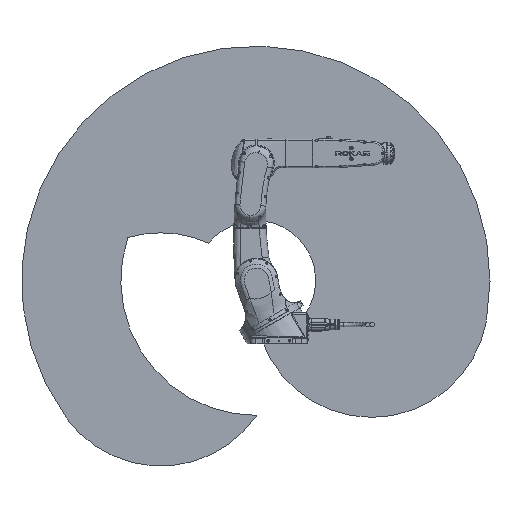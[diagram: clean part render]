
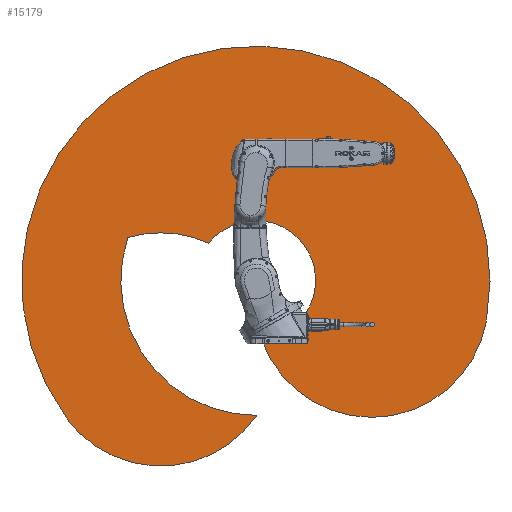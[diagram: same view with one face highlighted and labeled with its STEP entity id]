
A CAD part, front view. The second image highlights one B-rep face of the part: STEP entity #15179.
In plain terms, the highlighted planar face has unit normal (0, -1, 0).
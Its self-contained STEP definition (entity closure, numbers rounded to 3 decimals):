
#15179=ADVANCED_FACE('',(#19176),#16331,.T.);
#16331=PLANE('',#56952);
#19176=FACE_OUTER_BOUND('',#22993,.T.);
#22993=EDGE_LOOP('',(#37634,#37635,#37636,#37637,#37638,#37639));
#37634=ORIENTED_EDGE('',*,*,#49543,.T.);
#37635=ORIENTED_EDGE('',*,*,#49544,.T.);
#37636=ORIENTED_EDGE('',*,*,#49545,.T.);
#37637=ORIENTED_EDGE('',*,*,#49546,.T.);
#37638=ORIENTED_EDGE('',*,*,#49547,.T.);
#37639=ORIENTED_EDGE('',*,*,#49548,.T.);
#42217=VERTEX_POINT('',#145401);
#42218=VERTEX_POINT('',#145402);
#42219=VERTEX_POINT('',#145404);
#42220=VERTEX_POINT('',#145406);
#42221=VERTEX_POINT('',#145408);
#42222=VERTEX_POINT('',#145410);
#49543=EDGE_CURVE('',#42217,#42218,#52000,.T.);
#49544=EDGE_CURVE('',#42218,#42219,#52001,.T.);
#49545=EDGE_CURVE('',#42219,#42220,#52002,.T.);
#49546=EDGE_CURVE('',#42220,#42221,#52003,.T.);
#49547=EDGE_CURVE('',#42221,#42222,#52004,.T.);
#49548=EDGE_CURVE('',#42222,#42217,#52005,.T.);
#52000=CIRCLE('',#56946,223.902);
#52001=CIRCLE('',#56947,436.406);
#52002=CIRCLE('',#56948,876.406);
#52003=CIRCLE('',#56949,436.406);
#52004=CIRCLE('',#56950,505.197);
#52005=CIRCLE('',#56951,436.406);
#56946=AXIS2_PLACEMENT_3D('',#145400,#69503,#69504);
#56947=AXIS2_PLACEMENT_3D('',#145403,#69505,#69506);
#56948=AXIS2_PLACEMENT_3D('',#145405,#69507,#69508);
#56949=AXIS2_PLACEMENT_3D('',#145407,#69509,#69510);
#56950=AXIS2_PLACEMENT_3D('',#145409,#69511,#69512);
#56951=AXIS2_PLACEMENT_3D('',#145411,#69513,#69514);
#56952=AXIS2_PLACEMENT_3D('',#145412,#69515,#69516);
#69503=DIRECTION('',(0.,1.,0.));
#69504=DIRECTION('',(1.,0.,0.));
#69505=DIRECTION('',(0.,-1.,0.));
#69506=DIRECTION('',(1.,0.,0.));
#69507=DIRECTION('',(0.,-1.,0.));
#69508=DIRECTION('',(1.,0.,0.));
#69509=DIRECTION('',(0.,-1.,0.));
#69510=DIRECTION('',(1.,0.,0.));
#69511=DIRECTION('',(0.,1.,0.));
#69512=DIRECTION('',(1.,0.,0.));
#69513=DIRECTION('',(0.,1.,0.));
#69514=DIRECTION('',(1.,0.,0.));
#69515=DIRECTION('',(0.,-1.,0.));
#69516=DIRECTION('',(0.,0.,-1.));
#145400=CARTESIAN_POINT('',(3537.069,5852.28,0.));
#145401=CARTESIAN_POINT('',(3361.382,5852.28,138.802));
#145402=CARTESIAN_POINT('',(3559.266,5852.28,-222.799));
#145403=CARTESIAN_POINT('',(3970.385,5852.28,-76.405));
#145404=CARTESIAN_POINT('',(4400.161,5852.28,-152.186));
#145405=CARTESIAN_POINT('',(3537.069,5852.28,0.));
#145406=CARTESIAN_POINT('',(2828.042,5852.28,-515.138));
#145407=CARTESIAN_POINT('',(3181.102,5852.28,-258.626));
#145408=CARTESIAN_POINT('',(3541.187,5852.28,-505.18));
#145409=CARTESIAN_POINT('',(3537.069,5852.28,0.));
#145410=CARTESIAN_POINT('',(3057.887,5852.28,160.025));
#145411=CARTESIAN_POINT('',(3181.102,5852.28,-258.626));
#145412=CARTESIAN_POINT('',(3359.086,5852.28,-129.313));
